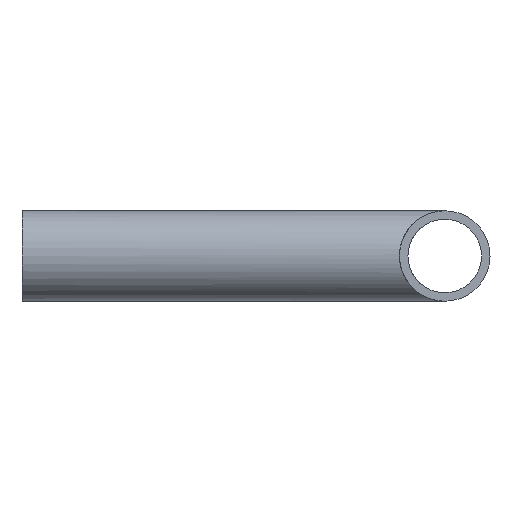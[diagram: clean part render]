
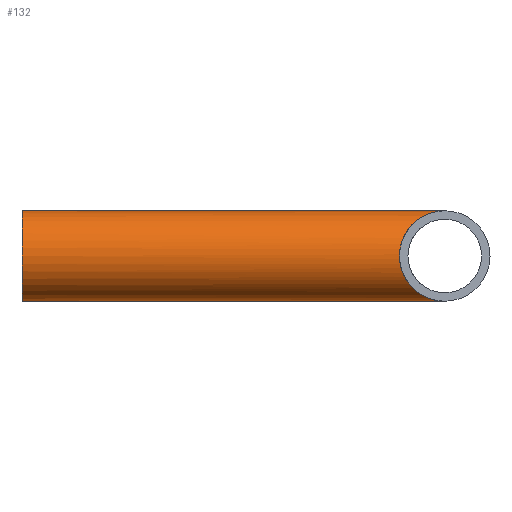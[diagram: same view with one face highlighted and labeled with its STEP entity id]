
A CAD part, left-side view. The second image highlights one B-rep face of the part: STEP entity #132.
In plain terms, the highlighted cylindrical face has radius 4.765 mm (diameter 9.53 mm), a partial arc.
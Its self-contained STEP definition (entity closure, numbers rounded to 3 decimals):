
#3 = ORIENTED_EDGE ( 'NONE', *, *, #328, .F. ) ;
#37 = AXIS2_PLACEMENT_3D ( 'NONE', #317, #352, #346 ) ;
#65 = ORIENTED_EDGE ( 'NONE', *, *, #350, .T. ) ;
#66 = CARTESIAN_POINT ( 'NONE',  ( -9.53, 9.53, 4.765 ) ) ;
#71 = CARTESIAN_POINT ( 'NONE',  ( 0., 0., 4.765 ) ) ;
#89 = VERTEX_POINT ( 'NONE', #366 ) ;
#103 = DIRECTION ( 'NONE',  ( 0., 1., 0. ) ) ;
#104 = VECTOR ( 'NONE', #201, 1000. ) ;
#111 = CARTESIAN_POINT ( 'NONE',  ( 0., -500000., 0. ) ) ;
#114 = DIRECTION ( 'NONE',  ( 0., 0., 1. ) ) ;
#117 = LINE ( 'NONE', #223, #104 ) ;
#130 = VERTEX_POINT ( 'NONE', #133 ) ;
#132 = ADVANCED_FACE ( 'NONE', ( #378 ), #173, .T. ) ;
#133 = CARTESIAN_POINT ( 'NONE',  ( 0., 0., 4.765 ) ) ;
#161 = VERTEX_POINT ( 'NONE', #228 ) ;
#168 = EDGE_LOOP ( 'NONE', ( #3, #282, #65, #322 ) ) ;
#170 = VECTOR ( 'NONE', #221, 1000. ) ;
#172 = VERTEX_POINT ( 'NONE', #222 ) ;
#173 = CYLINDRICAL_SURFACE ( 'NONE', #354, 4.765 ) ;
#192 =( BOUNDED_CURVE ( )  B_SPLINE_CURVE ( 3, ( #71, #66, #197, #257 ),
 .UNSPECIFIED., .F., .T. ) 
 B_SPLINE_CURVE_WITH_KNOTS ( ( 4, 4 ),
 ( 4.712, 7.854 ),
 .UNSPECIFIED. ) 
 CURVE ( )  GEOMETRIC_REPRESENTATION_ITEM ( )  RATIONAL_B_SPLINE_CURVE ( ( 1., 0.333, 0.333, 1. ) ) 
 REPRESENTATION_ITEM ( '' )  );
#197 = CARTESIAN_POINT ( 'NONE',  ( -9.53, 9.53, -4.765 ) ) ;
#201 = DIRECTION ( 'NONE',  ( 0., 1., 0. ) ) ;
#218 = CARTESIAN_POINT ( 'NONE',  ( 0., -500000., -4.765 ) ) ;
#221 = DIRECTION ( 'NONE',  ( 0., 1., 0. ) ) ;
#222 = CARTESIAN_POINT ( 'NONE',  ( 0., 0., -4.765 ) ) ;
#223 = CARTESIAN_POINT ( 'NONE',  ( 0., -500000., 4.765 ) ) ;
#228 = CARTESIAN_POINT ( 'NONE',  ( 0., 44.5, 4.765 ) ) ;
#242 = EDGE_CURVE ( 'NONE', #161, #89, #276, .T. ) ;
#257 = CARTESIAN_POINT ( 'NONE',  ( 0., 0., -4.765 ) ) ;
#276 = CIRCLE ( 'NONE', #37, 4.765 ) ;
#282 = ORIENTED_EDGE ( 'NONE', *, *, #373, .F. ) ;
#317 = CARTESIAN_POINT ( 'NONE',  ( 0., 44.5, 0. ) ) ;
#322 = ORIENTED_EDGE ( 'NONE', *, *, #242, .T. ) ;
#328 = EDGE_CURVE ( 'NONE', #172, #89, #334, .T. ) ;
#334 = LINE ( 'NONE', #218, #170 ) ;
#346 = DIRECTION ( 'NONE',  ( 0., 0., 1. ) ) ;
#350 = EDGE_CURVE ( 'NONE', #130, #161, #117, .T. ) ;
#352 = DIRECTION ( 'NONE',  ( 0., -1., 0. ) ) ;
#354 = AXIS2_PLACEMENT_3D ( 'NONE', #111, #103, #114 ) ;
#366 = CARTESIAN_POINT ( 'NONE',  ( 0., 44.5, -4.765 ) ) ;
#373 = EDGE_CURVE ( 'NONE', #130, #172, #192, .T. ) ;
#378 = FACE_OUTER_BOUND ( 'NONE', #168, .T. ) ;
